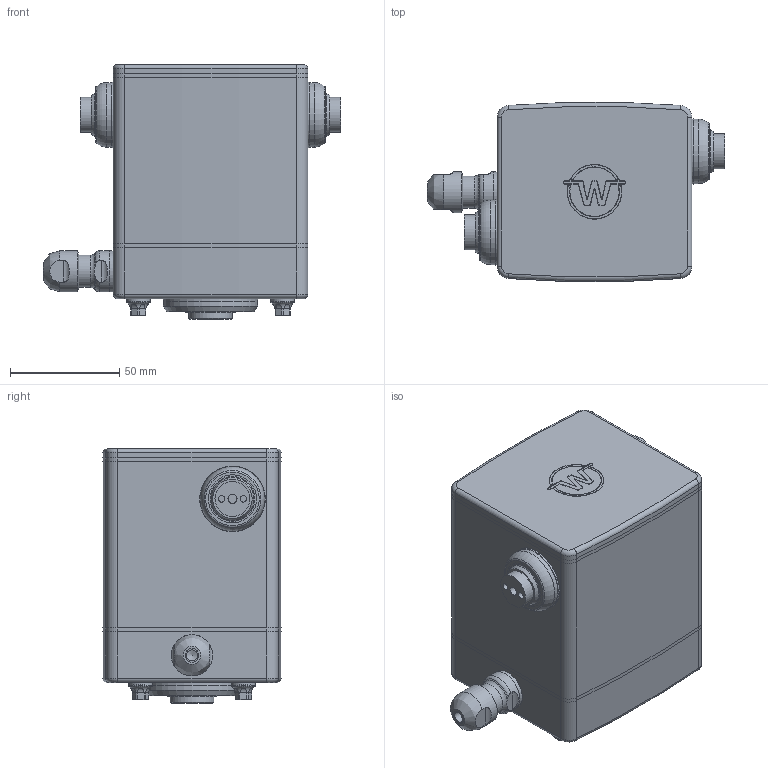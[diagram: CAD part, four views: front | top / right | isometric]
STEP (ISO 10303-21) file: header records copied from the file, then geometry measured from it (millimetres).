
FILE_DESCRIPTION(/* description */ (''),/* implementation_level */ '2;1');
FILE_NAME(/* name */ 'H:\Sterigrip\Mechanik\STERIGRIP 200-030\Konturvereinfachung\export\STERIGRIP_200-030_Customer.stp',/* time_stamp */ '2026-01-20T10:32:41+01:00',/* author */ ('Weiss Robotics GmbH & Co. KG'),/* organization */ ('Weiss Robotics'),/* preprocessor_version */ 'ST-DEVELOPER v17',/* originating_system */ 'Autodesk Inventor 2018',/* authorisation */ '');
FILE_SCHEMA (('AUTOMOTIVE_DESIGN { 1 0 10303 214 3 1 1 }'));
Length unit declared in the file: millimetre
Products named in the file (6): STERIGRIP_200-030_Customer; Grundkörper; Stangenführung; Fingerdichtung; SKINTOP Hygienic M12x1,5 Art.-Nr. 531051005; K1492.04X16
Assembly tree (10 placements, depth 2):
  STERIGRIP_200-030_Customer
    Grundkörper
    Stangenführung  x2
    Fingerdichtung  x2
    SKINTOP Hygienic M12x1,5 Art.-Nr. 531051005
    K1492.04X16  x4
Bounding box: 135.9 x 81.66 x 116.5 mm (x, y, z)
Volume: 792906.3 mm3; surface area: 111084.5 mm2
Topology: 26 solids, 26 shells, 492 faces, 1358 edges, 952 vertices
Faces by surface type: cylinder 176, plane 175, bspline 88, torus 35, cone 14, sphere 4
Full cylindrical faces by diameter (mm): 3 x4, 4 x8, 4.134 x2, 4.2 x4, 5 x2, 5.5 x4, 6.2 x1, 7.6 x1, 8.5 x1, 10 x1, 10.8 x4, 12 x2, 14.7 x1, 16 x9, 18.76 x1, 18.8 x2, 20 x2, 22 x4, 23.6 x1, 25 x4, 29.5 x2, 30 x2, 39.4 x2, 43 x2
Entity records: 13868 total; most frequent: CARTESIAN_POINT 4213, ORIENTED_EDGE 2038, DIRECTION 1773, EDGE_CURVE 1019, VERTEX_POINT 705, AXIS2_PLACEMENT_3D 675, EDGE_LOOP 434, LINE 423
